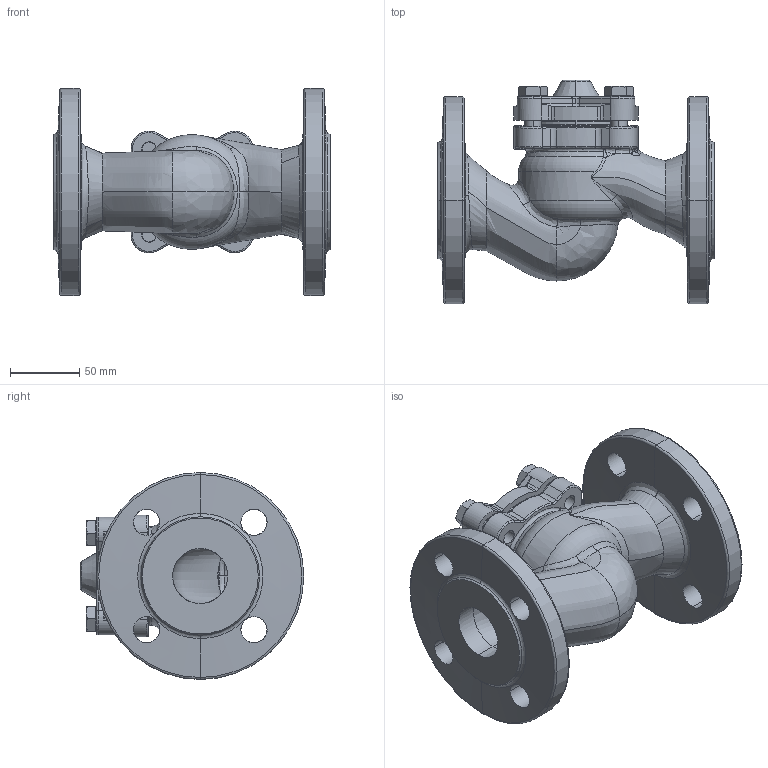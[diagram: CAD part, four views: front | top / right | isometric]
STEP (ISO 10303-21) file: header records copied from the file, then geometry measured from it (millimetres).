
FILE_DESCRIPTION (( 'STEP AP214' ), '1' );
FILE_NAME ('TCV_DN40 PN16.STEP', '2024-08-15T11:56:08', ( '' ), ( '' ), 'SwSTEP 2.0', 'SolidWorks 2023', '' );
FILE_SCHEMA (( 'AUTOMOTIVE_DESIGN' ));
Length unit declared in the file: millimetre
Products named in the file (1): TCV_DN40 PN16
Bounding box: 200 x 162 x 150 mm (x, y, z)
Volume: 1010565.2 mm3; surface area: 199806 mm2
Topology: 6 solids, 6 shells, 490 faces, 1183 edges, 710 vertices
Faces by surface type: cylinder 141, bspline 136, plane 104, cone 56, torus 53
Entity records: 97141 total; most frequent: CARTESIAN_POINT 86967, ORIENTED_EDGE 2358, DIRECTION 1699, EDGE_CURVE 1179, VERTEX_POINT 710, AXIS2_PLACEMENT_3D 688, EDGE_LOOP 535, ADVANCED_FACE 490
